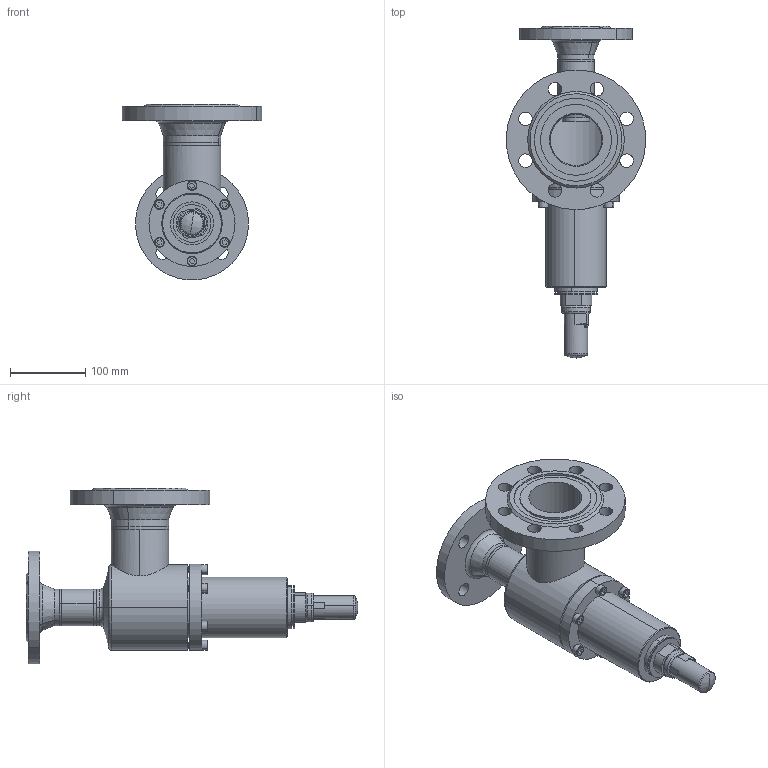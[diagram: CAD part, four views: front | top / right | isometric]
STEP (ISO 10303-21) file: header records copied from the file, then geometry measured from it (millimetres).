
FILE_DESCRIPTION (( 'STEP AP214' ), '1' );
FILE_NAME ('ORV 452FL-C14-DN40''65_DIN-FL_PS25.STEP', '2010-06-17T08:34:06', ( 'Eckhard Grams' ), ( 'AWP Kälte Klima Armaturen GmbH' ), 'SwSTEP 2.0', 'SolidWorks 2002296', '' );
FILE_SCHEMA (( 'AUTOMOTIVE_DESIGN' ));
Length unit declared in the file: millimetre
Products named in the file (16): ORV 452FL-C14-DN40''65_DIN-FL_PS25; Loser-FL44331.14-DN40-SVU_PS25_(DN40-50-SVA-ORV)_Standard; Geh,kpl 43220B14-DN40''65_DIN-FL_PS25_Standard; bead43220B14-Geh-kpl_PS25a_Standard; bead43220B14-Geh-kpl_PS25b_Standard; Flansch-DIN2635-Nut_PS40_DIN-Flansch-DN065_PS40-Nut; Flansch-DIN2635-Nut_PS40_DIN-Flansch-DN040_PS40-Nut; Geh-kpl43200B14-DN40''65_R1_PS25_Standard; Geh-körper,kpl43200B14-DN40_PS25_R1_Standard; Rohrstutzen43200E14-DN40''65_R1_STANDARD; Rohrstutzen-E43200E14-DN40_R1_STANDARD; bead43200B14-Geh-kpl-PS25_Standard; Haube-ORV-DN40-50_Standard; Kappe SVA-SVU-ORV_DN10-40 (M27x1,5)_Standard; Deckel_ORV_DN40-50_Standard; Zylinderschraube-DIN912-M 8x30_M 8x 25
Assembly tree (20 placements, depth 4):
  ORV 452FL-C14-DN40''65_DIN-FL_PS25
    Geh,kpl 43220B14-DN40''65_DIN-FL_PS25_Standard
      bead43220B14-Geh-kpl_PS25b_Standard
      Flansch-DIN2635-Nut_PS40_DIN-Flansch-DN040_PS40-Nut
      Flansch-DIN2635-Nut_PS40_DIN-Flansch-DN065_PS40-Nut
      Geh-kpl43200B14-DN40''65_R1_PS25_Standard
        Rohrstutzen43200E14-DN40''65_R1_STANDARD
        Geh-körper,kpl43200B14-DN40_PS25_R1_Standard
        Rohrstutzen-E43200E14-DN40_R1_STANDARD
        bead43200B14-Geh-kpl-PS25_Standard
      bead43220B14-Geh-kpl_PS25a_Standard
    Zylinderschraube-DIN912-M 8x30_M 8x 25  x6
    Deckel_ORV_DN40-50_Standard
    Loser-FL44331.14-DN40-SVU_PS25_(DN40-50-SVA-ORV)_Standard
    Haube-ORV-DN40-50_Standard
    Kappe SVA-SVU-ORV_DN10-40 (M27x1,5)_Standard
Bounding box: 184.82 x 440 x 232.71 mm (x, y, z)
Volume: 1507090.8 mm3; surface area: 410899.8 mm2
Topology: 18 solids, 18 shells, 735 faces, 1908 edges, 1223 vertices
Faces by surface type: cylinder 442, plane 126, cone 90, torus 41, bspline 32, sphere 4
Entity records: 29602 total; most frequent: CARTESIAN_POINT 18305, ORIENTED_EDGE 2178, DIRECTION 2121, EDGE_CURVE 1089, AXIS2_PLACEMENT_3D 879, VERTEX_POINT 693, EDGE_LOOP 520, FACE_OUTER_BOUND 440
